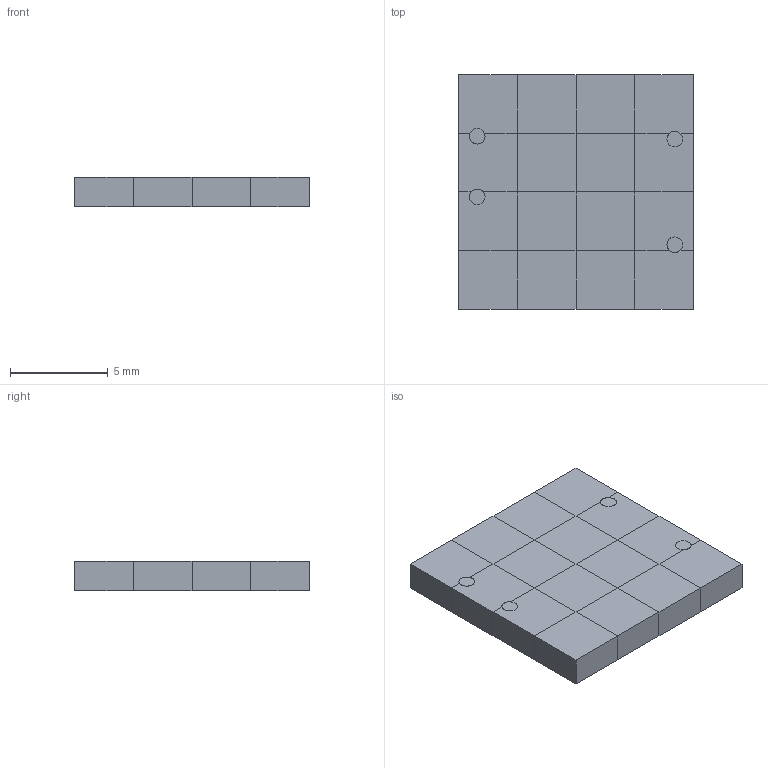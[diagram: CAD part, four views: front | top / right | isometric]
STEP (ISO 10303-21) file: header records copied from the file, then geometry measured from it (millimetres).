
FILE_DESCRIPTION(('Open CASCADE Model'),'2;1');
FILE_NAME('Open CASCADE Shape Model','2026-11-27T10:17:06',('Author'),( 'Open CASCADE'),'Open CASCADE STEP processor 7.9','Open CASCADE 7.9' ,'Unknown');
FILE_SCHEMA(('AUTOMOTIVE_DESIGN { 1 0 10303 214 1 1 1 1 }'));
Length unit declared in the file: millimetre
Products named in the file (3): manifold_N16; fluid; solid
Assembly tree (2 placements, depth 2):
  manifold_N16
    fluid
    solid
Bounding box: 12 x 12 x 1.5 mm (x, y, z)
Volume: 216 mm3; surface area: 1386.6 mm2
Topology: 2 solids, 2 shells, 1134 faces, 3866 edges, 2182 vertices
Faces by surface type: plane 1126, cylinder 8
Full cylindrical faces by diameter (mm): 0.8 x8
Entity records: 91124 total; most frequent: CARTESIAN_POINT 15859, DIRECTION 13678, LINE 11112, VECTOR 11112, ORIENTED_EDGE 7732, PCURVE 7732, DEFINITIONAL_REPRESENTATION 7732, EDGE_CURVE 3866
